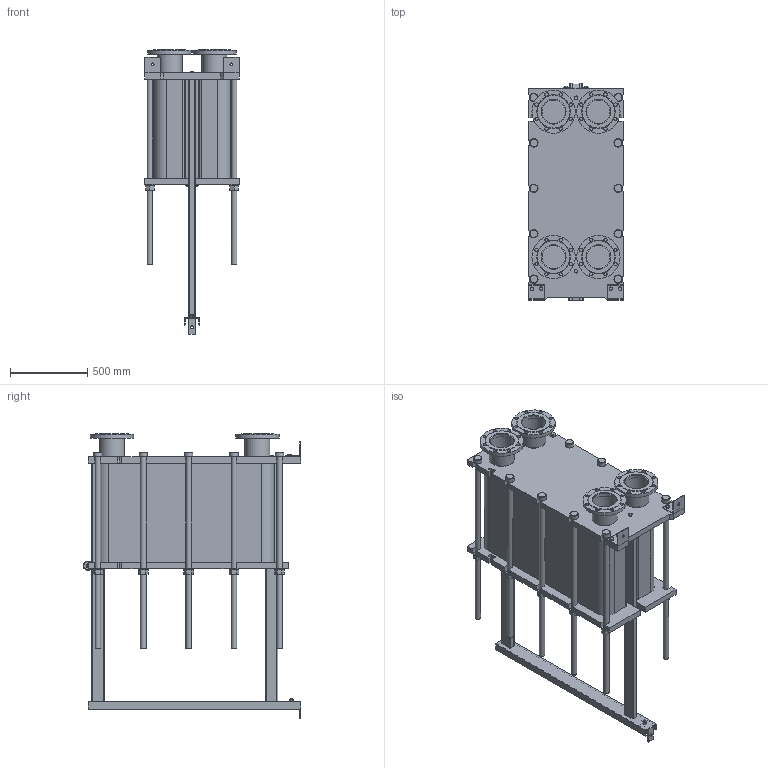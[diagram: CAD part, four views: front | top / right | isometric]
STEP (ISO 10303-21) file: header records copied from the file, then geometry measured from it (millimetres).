
FILE_DESCRIPTION(/* description */ (''),/* implementation_level */ '2;1');
FILE_NAME(/* name */ 'C:\Users\zhuro\Desktop\ENCO\TO\ЭН-041\ЭН-0,5-041-187-1.stp',/* time_stamp */ '2022-06-06T11:05:34+03:00',/* author */ ('zhuro'),/* organization */ (''),/* preprocessor_version */ 'ST-DEVELOPER v18.1',/* originating_system */ 'Autodesk Inventor 2022',/* authorisation */ '');
FILE_SCHEMA (('AUTOMOTIVE_DESIGN { 1 0 10303 214 3 1 1 }'));
Length unit declared in the file: millimetre
Products named in the file (1): ЭН-0,5-041-187-1
Bounding box: 610 x 1406.5 x 1842.5 mm (x, y, z)
Volume: 449443274.9 mm3; surface area: 10942789.8 mm2
Topology: 52 solids, 52 shells, 711 faces, 1696 edges, 1094 vertices
Faces by surface type: plane 487, cylinder 177, cone 41, torus 6
Full cylindrical faces by diameter (mm): 8 x4, 10 x2, 16 x8, 18 x3, 22 x32, 36 x24, 50 x1, 54 x10, 60 x12, 151 x4, 161 x8, 280 x4
Entity records: 22667 total; most frequent: CARTESIAN_POINT 5230, DIRECTION 3644, ORIENTED_EDGE 3392, EDGE_CURVE 1696, AXIS2_PLACEMENT_3D 1272, LINE 1100, VECTOR 1100, VERTEX_POINT 1094
